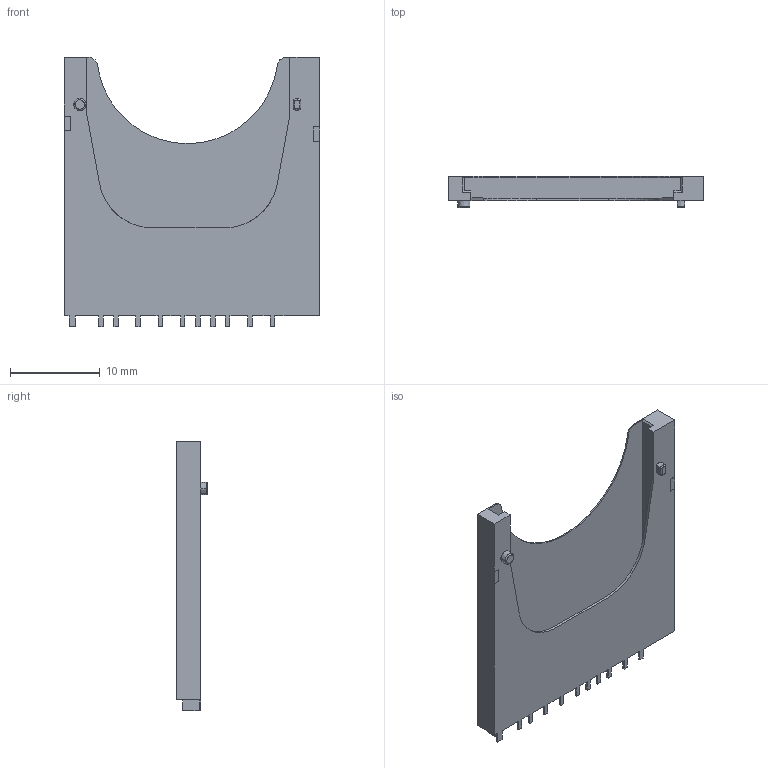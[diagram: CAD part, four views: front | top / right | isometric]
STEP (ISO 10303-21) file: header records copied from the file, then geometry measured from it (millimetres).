
FILE_DESCRIPTION(('CATIA V5 STEP Exchange'),'2;1');
FILE_NAME('F:\REF\特图电子-单阳光\2D\08-记忆卡\SD CARD套用新图框\SD-PUSH-PUSH_1081102BT013_0819.stp','2020-07-01T05:46:56+00:00',('none'),('none'),'CATIA Version 5 Release 17 (IN-10)','CATIA V5 STEP AP203','none');
FILE_SCHEMA(('CONFIG_CONTROL_DESIGN'));
Length unit declared in the file: millimetre
Products named in the file (1): SD-PUSH-PUSH_1081102BT003_0819
Bounding box: 28.44 x 3.5 x 30 mm (x, y, z)
Volume: 707.1 mm3; surface area: 2263.8 mm2
Topology: 1 solids, 1 shells, 100 faces, 281 edges, 185 vertices
Faces by surface type: plane 81, bspline 19
Entity records: 3705 total; most frequent: CARTESIAN_POINT 1244, ORIENTED_EDGE 562, DIRECTION 390, EDGE_CURVE 281, VECTOR 228, LINE 228, VERTEX_POINT 185, EDGE_LOOP 102
